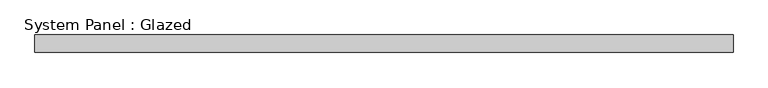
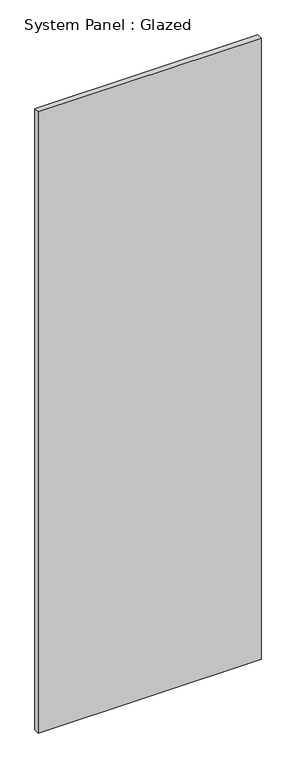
"""IFC4 building model written with IfcOpenShell, lengths in millimetres: plate geometry, System Panel : Glazed."""

import ifcopenshell
import ifcopenshell.guid

model = None  # the IFC model being written
_history = None  # IfcOwnerHistory: only IFC2X3 demands one
_inside = {}  # id of a spatial element -> (the spatial element, [elements in it])
_under = {}  # id of a project, library or spatial element -> (it, [spatial elements below it])
_declared = {}  # id of a project -> (the project, [libraries it declares])
_typed = {}  # id of a type object -> (the type object, [elements of that type])
_made_of = {}  # id of a material, layer set ... -> (it, [elements and type objects made of it])


def new_model(schema):
    """Start an empty IFC model of exactly this schema.

    Asked for "IFC4X3", IfcOpenShell would pick the latest addendum, in which some entities
    have other attributes; the version numbers below select the first issue.
    IFC2X3 requires an IfcOwnerHistory on every rooted entity: one is made here for all.
    """
    global model, _history
    if schema == "IFC4X3":
        model = ifcopenshell.file(schema_version=(4, 3, 0, 0))
    else:
        model = ifcopenshell.file(schema=schema)
    _inside.clear()
    _under.clear()
    _declared.clear()
    _typed.clear()
    _made_of.clear()
    _history = None
    if model.schema == "IFC2X3":
        org = make("IfcOrganization", Name="unknown")
        user = make(
            "IfcPersonAndOrganization",
            ThePerson=make("IfcPerson", FamilyName="unknown"),
            TheOrganization=org,
        )
        app = make(
            "IfcApplication",
            ApplicationDeveloper=org,
            Version="unknown",
            ApplicationFullName="unknown",
            ApplicationIdentifier="unknown",
        )
        _history = make(
            "IfcOwnerHistory",
            OwningUser=user,
            OwningApplication=app,
            ChangeAction="ADDED",
            CreationDate=0,
        )
    return model


def make(cls, **values):
    """One entity of the class cls with the attributes given. An attribute that is None is left unset."""
    return model.create_entity(
        cls, **{name: value for name, value in values.items() if value is not None}
    )


def rooted(cls, **values):
    """An entity with a GlobalId (a new one), such as an element, a storey or a relation."""
    return make(cls, GlobalId=ifcopenshell.guid.new(), OwnerHistory=_history, **values)


def si_unit(unit_type, name, prefix=None):
    """IfcSIUnit, for example si_unit("LENGTHUNIT", "METRE", prefix="MILLI")."""
    return make("IfcSIUnit", UnitType=unit_type, Prefix=prefix, Name=name)


def assignment(units):
    """IfcUnitAssignment: the units of a project."""
    return None if units is None else make("IfcUnitAssignment", Units=units)


def point(xyz):
    """IfcCartesianPoint."""
    return None if xyz is None else make("IfcCartesianPoint", Coordinates=xyz)


def direction(xyz):
    """IfcDirection."""
    return None if xyz is None else make("IfcDirection", DirectionRatios=xyz)


def frame(location, z_axis=None, x_axis=None):
    """IfcAxis2Placement3D, a coordinate frame: its origin and axes. An axis left out is left unset."""
    return make(
        "IfcAxis2Placement3D",
        Location=point(location),
        Axis=direction(z_axis),
        RefDirection=direction(x_axis),
    )


def origin():
    """The frame at (0, 0, 0) with its axes left unset."""
    return frame((0.0, 0.0, 0.0))


def origin_with_axes():
    """The frame at (0, 0, 0) with the z axis (0, 0, 1) and the x axis (1, 0, 0) written out."""
    return frame((0.0, 0.0, 0.0), z_axis=(0.0, 0.0, 1.0), x_axis=(1.0, 0.0, 0.0))


def place(relative_to, where):
    """IfcLocalPlacement: puts the frame where relative to a parent placement (None: the world)."""
    return make(
        "IfcLocalPlacement", PlacementRelTo=relative_to, RelativePlacement=where
    )


def context(
    kind, dimensions, precision=None, world=None, true_north=None, identifier=None
):
    """IfcGeometricRepresentationContext, for example the 3D "Model" context."""
    return make(
        "IfcGeometricRepresentationContext",
        ContextIdentifier=identifier,
        ContextType=kind,
        CoordinateSpaceDimension=dimensions,
        Precision=precision,
        WorldCoordinateSystem=world,
        TrueNorth=true_north,
    )


def project(units=None, contexts=None):
    """IfcProject with its units and contexts."""
    return rooted(
        "IfcProject",
        Name="project",
        RepresentationContexts=contexts,
        UnitsInContext=assignment(units),
    )


def spatial(cls, under=None, at=None, **own):
    """A site, building, storey or space (cls), placed at a placement, below another one or the project."""
    s = rooted(cls, ObjectPlacement=at, **own)
    if under is not None:
        _under.setdefault(under.id(), (under, []))[1].append(s)
    return s


def polyline(points):
    """IfcPolyline through the points."""
    return make("IfcPolyline", Points=[point(p) for p in points])


def outline(outer, holes=None, kind="AREA"):
    """IfcArbitraryClosedProfileDef: a profile drawn as a closed curve; with holes, ...WithVoids."""
    if holes is None:
        return make("IfcArbitraryClosedProfileDef", ProfileType=kind, OuterCurve=outer)
    return make(
        "IfcArbitraryProfileDefWithVoids",
        ProfileType=kind,
        OuterCurve=outer,
        InnerCurves=holes,
    )


def extrude(swept, where, along, depth):
    """IfcExtrudedAreaSolid: the profile swept, set in the frame where, extruded along a direction by depth."""
    return make(
        "IfcExtrudedAreaSolid",
        SweptArea=swept,
        Position=where,
        ExtrudedDirection=direction(along),
        Depth=depth,
    )


def shape(context_of_items, identifier, shape_type, items):
    """IfcShapeRepresentation: the items that make up one representation, for example the "Body"."""
    return make(
        "IfcShapeRepresentation",
        ContextOfItems=context_of_items,
        RepresentationIdentifier=identifier,
        RepresentationType=shape_type,
        Items=items,
    )


def source(mapping_origin, context_of_items, identifier, shape_type, items):
    """IfcRepresentationMap: a shape defined once, which mapped items show again and again."""
    return make(
        "IfcRepresentationMap",
        MappingOrigin=mapping_origin,
        MappedRepresentation=shape(context_of_items, identifier, shape_type, items),
    )


def transform(
    local_origin,
    x_axis=None,
    y_axis=None,
    z_axis=None,
    scale=None,
    scale2=None,
    scale3=None,
    uniform=True,
):
    """IfcCartesianTransformationOperator3D, or its non-uniform kind. x_axis, y_axis, z_axis: its Axis1, 2, 3."""
    if uniform:
        return make(
            "IfcCartesianTransformationOperator3D",
            Axis1=direction(x_axis),
            Axis2=direction(y_axis),
            LocalOrigin=point(local_origin),
            Scale=scale,
            Axis3=direction(z_axis),
        )
    return make(
        "IfcCartesianTransformationOperator3DnonUniform",
        Axis1=direction(x_axis),
        Axis2=direction(y_axis),
        LocalOrigin=point(local_origin),
        Scale=scale,
        Axis3=direction(z_axis),
        Scale2=scale2,
        Scale3=scale3,
    )


def mapped(mapping_source, mapping_target):
    """IfcMappedItem: shows the shape of a source again, moved by a transform."""
    return make(
        "IfcMappedItem", MappingSource=mapping_source, MappingTarget=mapping_target
    )


def made_of(thing, what):
    """Note that an element or type object is made of a material, layer set ...; save() writes the relation."""
    if what is not None:
        _made_of.setdefault(what.id(), (what, []))[1].append(thing)
    return thing


def element(
    cls,
    number,
    at=None,
    inside=None,
    cuts=None,
    type_object=None,
    material=None,
    context=None,
    identifier="Body",
    shape_type=None,
    held_by="IfcProductDefinitionShape",
    body=None,
    shapes=None,
    **own,
):
    """One element of the class cls, such as IfcWall. Its Tag is "e" and its number.

    at: its placement. inside: the storey or other place that contains it. cuts: it is an
    opening in that element (IfcRelVoidsElement). A single representation is given by context,
    identifier, shape_type and body (its items); several are given by shapes. held_by: the class
    of the entity that holds the representations. save() writes the other relations.
    """
    e = rooted(cls, Tag="e%d" % number, ObjectPlacement=at, **own)
    if body is not None:
        shapes = [shape(context, identifier, shape_type, body)]
    if shapes is not None:
        e.Representation = make(held_by, Representations=shapes)
    if inside is not None:
        _inside.setdefault(inside.id(), (inside, []))[1].append(e)
    if cuts is not None:
        rooted(
            "IfcRelVoidsElement", RelatingBuildingElement=cuts, RelatedOpeningElement=e
        )
    if type_object is not None:
        _typed.setdefault(type_object.id(), (type_object, []))[1].append(e)
    return made_of(e, material)


def aggregate(whole, parts):
    """IfcRelAggregates: a whole, such as a stair, and the parts it consists of."""
    return rooted("IfcRelAggregates", RelatingObject=whole, RelatedObjects=parts)


def save(model, path):
    """Write the relations noted so far, then the file.

    IfcRelAggregates (storeys below a building ...), IfcRelContainedInSpatialStructure (elements
    in a storey), IfcRelDefinesByType, IfcRelAssociatesMaterial and IfcRelDeclares: one each for
    every whole, place, type object, material and project.
    """
    for whole, parts in _under.values():
        aggregate(whole, parts)
    for where, things in _inside.values():
        rooted(
            "IfcRelContainedInSpatialStructure",
            RelatedElements=things,
            RelatingStructure=where,
        )
    for kind, things in _typed.values():
        rooted("IfcRelDefinesByType", RelatedObjects=things, RelatingType=kind)
    for what, things in _made_of.values():
        rooted("IfcRelAssociatesMaterial", RelatedObjects=things, RelatingMaterial=what)
    for by, libraries in _declared.values():
        rooted("IfcRelDeclares", RelatingContext=by, RelatedDefinitions=libraries)
    model.write(path)


def system_panel_glazed_ec733d0a(model_context):
    return source(origin(), model_context, "Body", "SweptSolid", [
        extrude(outline(polyline([(500.75, -49.5), (-500.75, -49.5), (-500.75, -24.5), (500.75, -24.5), (500.75, -49.5)])), origin_with_axes(), (0.0, 0.0, 1.0), 2950.0),
    ])


if __name__ == "__main__":
    model = new_model("IFC4")
    model_context = context("Model", 3, world=origin())
    ifc_project = project(units=[si_unit("LENGTHUNIT", "METRE", prefix="MILLI")], contexts=[model_context])
    site = spatial("IfcSite", under=ifc_project)
    building = spatial("IfcBuilding", under=site)
    placement = place(None, origin())
    system_panel_glazed_shape = system_panel_glazed_ec733d0a(model_context)
    element("IfcPlate", 1, ObjectType="System Panel : Glazed", at=placement, inside=building, context=model_context, shape_type="MappedRepresentation", body=[
        mapped(system_panel_glazed_shape, transform((0.0, 0.0, 0.0), x_axis=(1.0, 0.0, 0.0), y_axis=(0.0, 1.0, 0.0), z_axis=(0.0, 0.0, 1.0))),
    ])
    save(model, "model.ifc")
